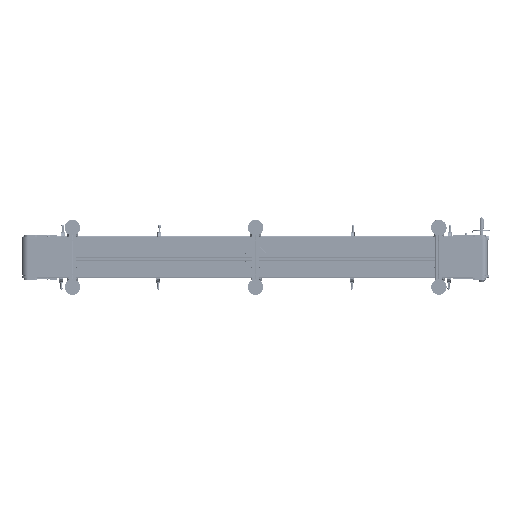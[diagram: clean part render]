
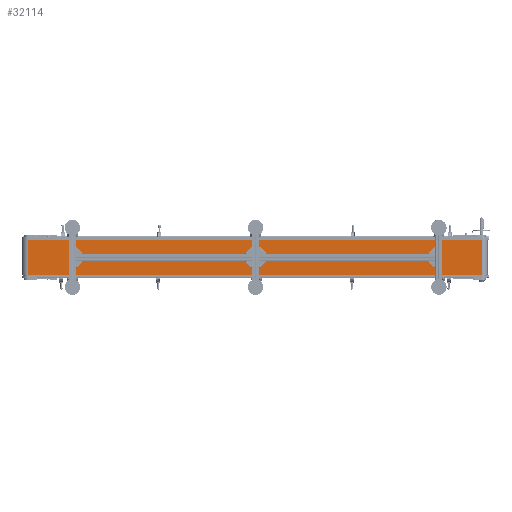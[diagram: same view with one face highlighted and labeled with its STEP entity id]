
A CAD part, front view. The second image highlights one B-rep face of the part: STEP entity #32114.
In plain terms, the highlighted planar face has unit normal (0, -1, 0).
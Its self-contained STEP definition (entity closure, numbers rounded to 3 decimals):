
#148 = DIRECTION ( 'NONE',  ( 1., 0., 0. ) ) ;
#3172 = VERTEX_POINT ( 'NONE', #174133 ) ;
#6549 = EDGE_CURVE ( 'NONE', #42516, #83381, #27694, .T. ) ;
#8453 = EDGE_CURVE ( 'NONE', #95171, #3172, #51223, .T. ) ;
#13210 = DIRECTION ( 'NONE',  ( 0., 0., 1. ) ) ;
#25965 = VECTOR ( 'NONE', #148, 1000. ) ;
#27694 = LINE ( 'NONE', #85461, #25965 ) ;
#32114 = ADVANCED_FACE ( 'NONE', ( #74867 ), #81211, .T. ) ;
#36604 = ORIENTED_EDGE ( 'NONE', *, *, #81801, .T. ) ;
#39013 = DIRECTION ( 'NONE',  ( 0., 0., -1. ) ) ;
#42014 = CARTESIAN_POINT ( 'NONE',  ( -114.3, -77.4, 2935. ) ) ;
#42516 = VERTEX_POINT ( 'NONE', #147359 ) ;
#51223 = LINE ( 'NONE', #174224, #61144 ) ;
#61144 = VECTOR ( 'NONE', #90772, 1000. ) ;
#63831 = ORIENTED_EDGE ( 'NONE', *, *, #6549, .T. ) ;
#63984 = CARTESIAN_POINT ( 'NONE',  ( 114.3, -77.4, 0. ) ) ;
#69061 = LINE ( 'NONE', #169056, #122050 ) ;
#69883 = EDGE_LOOP ( 'NONE', ( #36604, #85691, #128210, #63831 ) ) ;
#72195 = AXIS2_PLACEMENT_3D ( 'NONE', #163804, #106943, #39013 ) ;
#74867 = FACE_OUTER_BOUND ( 'NONE', #69883, .T. ) ;
#81211 = PLANE ( 'NONE',  #72195 ) ;
#81801 = EDGE_CURVE ( 'NONE', #83381, #3172, #96745, .T. ) ;
#82561 = CARTESIAN_POINT ( 'NONE',  ( 114.3, -77.4, 0. ) ) ;
#83381 = VERTEX_POINT ( 'NONE', #82561 ) ;
#85461 = CARTESIAN_POINT ( 'NONE',  ( 114.3, -77.4, 0. ) ) ;
#85691 = ORIENTED_EDGE ( 'NONE', *, *, #8453, .F. ) ;
#90772 = DIRECTION ( 'NONE',  ( 1., 0., 0. ) ) ;
#95171 = VERTEX_POINT ( 'NONE', #42014 ) ;
#96745 = LINE ( 'NONE', #63984, #111522 ) ;
#106943 = DIRECTION ( 'NONE',  ( 0., -1., 0. ) ) ;
#111522 = VECTOR ( 'NONE', #13210, 1000. ) ;
#122050 = VECTOR ( 'NONE', #127741, 1000. ) ;
#127741 = DIRECTION ( 'NONE',  ( 0., 0., 1. ) ) ;
#128210 = ORIENTED_EDGE ( 'NONE', *, *, #171752, .F. ) ;
#147359 = CARTESIAN_POINT ( 'NONE',  ( -114.3, -77.4, 0. ) ) ;
#163804 = CARTESIAN_POINT ( 'NONE',  ( 114.3, -77.4, 0. ) ) ;
#169056 = CARTESIAN_POINT ( 'NONE',  ( -114.3, -77.4, 0. ) ) ;
#171752 = EDGE_CURVE ( 'NONE', #42516, #95171, #69061, .T. ) ;
#174133 = CARTESIAN_POINT ( 'NONE',  ( 114.3, -77.4, 2935. ) ) ;
#174224 = CARTESIAN_POINT ( 'NONE',  ( 114.3, -77.4, 2935. ) ) ;
